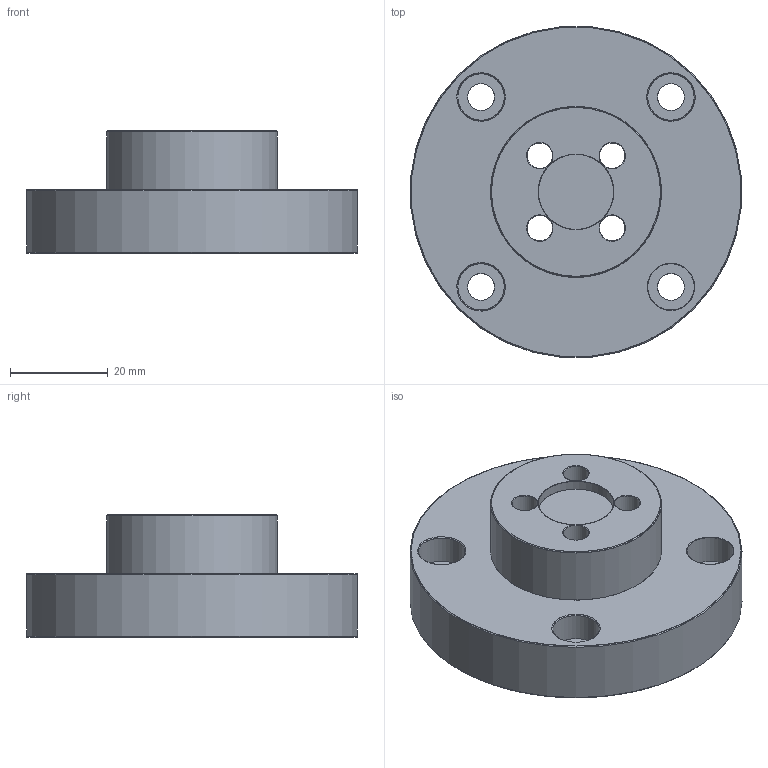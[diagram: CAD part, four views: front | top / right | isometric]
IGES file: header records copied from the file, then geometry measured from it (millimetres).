
Start section: Iges File created by ES
Global section: native system: ES; preprocessor: IGES.4B00; organization: JingDiao; units: millimetre
Bounding box: 67.74 x 67.74 x 25 mm (x, y, z)
Surface area: 14585 mm2 (no closed solid volume)
Topology: 0 solids, 0 shells, 51 faces, 789 edges, 750 vertices
Faces by surface type: revolution 39, bspline 12
